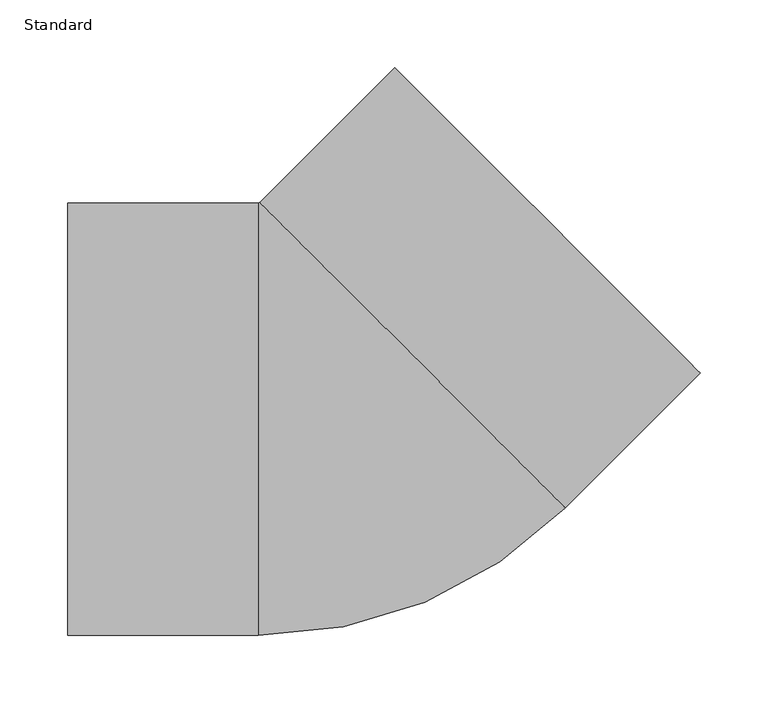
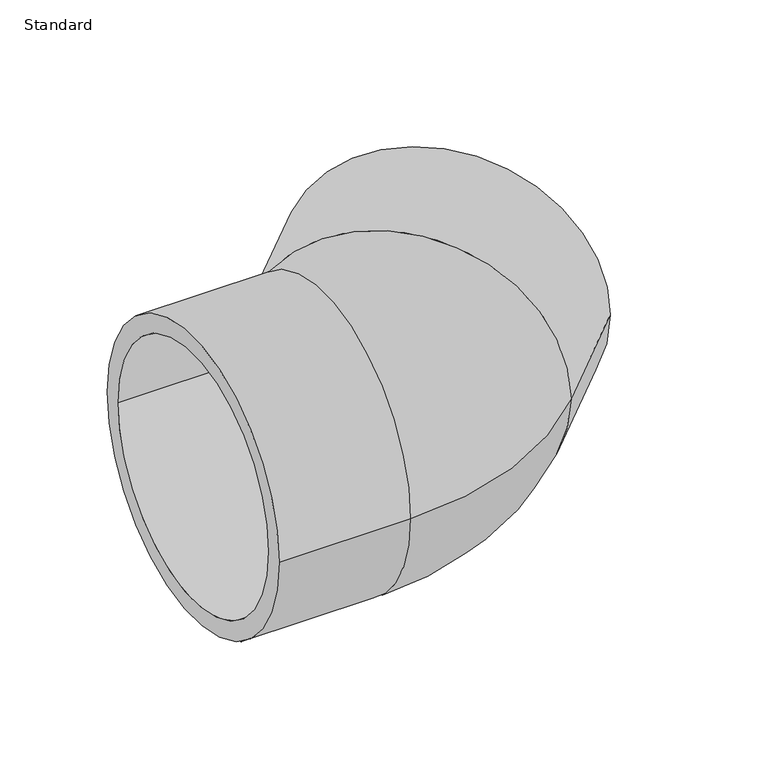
"""IFC4 building model written with IfcOpenShell, lengths in millimetres: pipe fitting geometry, Durapipe_PipeFitting_PVC_Elbow45deg : Standard."""

from ifc_helpers import new_model, si_unit, point, frame, origin, place, context, project, spatial, polyline, circle_curve, ellipse_curve, trimmed, source, transform, mapped, element, save
from ifc_brep_helpers import plane_surface, cylinder_surface, revolved_surface, advanced_brep


def standard_2a486069(model_context):
    return source(origin(), model_context, "Body", "AdvancedBrep", [
        advanced_brep(
        [(-208.0, -160.0, 0.0), (-208.0, 160.0, 0.0), (-208.0, -140.0, 0.0), (-208.0, 140.0, 0.0), (-66.77417, -160.0, 0.0), (-66.77417, 160.0, 0.0), (160.3535534, -65.9206166, 0.0), (-65.9206166, 160.3535534, 0.0), (260.2152955, 33.9411255, 0.0), (33.9411255, 260.2152955, 0.0), (48.0832611, 246.0731599, 0.0), (246.0731599, 48.0832611, 0.0), (-62.0, 140.0, 0.0), (-62.0, -140.0, 0.0), (-62.0, 0.0, 0.0), (-55.1543289, 142.8355698, 0.0), (43.8406204, 43.8406204, 0.0), (142.8355698, -55.1543289, 0.0)],
        [
            (0, 1, circle_curve(frame((-208.0, 0.0, 0.0), z_axis=(-1.0, 0.0, 0.0), x_axis=(0.0, 1.0, 0.0)), 160.0)),
            (1, 0, circle_curve(frame((-208.0, 0.0, 0.0), z_axis=(-1.0, 0.0, 0.0), x_axis=(0.0, 1.0, 0.0)), 160.0)),
            (2, 3, circle_curve(frame((-208.0, 0.0, 0.0), z_axis=(1.0, 0.0, 0.0), x_axis=(0.0, -1.0, 0.0)), 140.0)),
            (3, 2, circle_curve(frame((-208.0, 0.0, 0.0), z_axis=(1.0, 0.0, 0.0), x_axis=(0.0, -1.0, 0.0)), 140.0)),
            (0, 4),
            (4, 5, circle_curve(frame((-66.77417, 0.0, 0.0), z_axis=(-1.0, 0.0, 0.0), x_axis=(0.0, 1.0, 0.0)), 160.0)),
            (5, 1),
            (5, 4, circle_curve(frame((-66.77417, 0.0, 0.0), z_axis=(-1.0, 0.0, 0.0), x_axis=(0.0, 1.0, 0.0)), 160.0)),
            (4, 6, circle_curve(frame((-66.77417, 161.2071068, 0.0), z_axis=(0.0, 0.0, 1.0), x_axis=(0.0, -1.0, 0.0)), 321.2071068)),
            (6, 7, circle_curve(frame((47.2164684, 47.2164684, 0.0), z_axis=(-0.7071067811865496, -0.7071067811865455, 0.0), x_axis=(-0.7071067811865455, 0.7071067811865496, 0.0)), 160.0)),
            (7, 5, circle_curve(frame((-66.77417, 161.2071068, 0.0), z_axis=(0.0, 0.0, -1.0), x_axis=(0.0, -1.0, 0.0)), 1.2071068)),
            (7, 6, circle_curve(frame((47.2164684, 47.2164684, 0.0), z_axis=(-0.7071067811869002, -0.7071067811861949, 0.0), x_axis=(-0.7071067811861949, 0.7071067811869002, 0.0)), 160.0)),
            (8, 9, circle_curve(frame((147.0782105, 147.0782105, 0.0), z_axis=(0.7071067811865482, 0.707106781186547, 0.0), x_axis=(-0.707106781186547, 0.7071067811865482, 0.0)), 160.0)),
            (9, 8, circle_curve(frame((147.0782105, 147.0782105, 0.0), z_axis=(0.7071067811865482, 0.707106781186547, 0.0), x_axis=(-0.707106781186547, 0.7071067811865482, 0.0)), 160.0)),
            (10, 11, circle_curve(frame((147.0782105, 147.0782105, 0.0), z_axis=(-0.707106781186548, -0.707106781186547, 0.0), x_axis=(0.707106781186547, -0.707106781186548, 0.0)), 140.0)),
            (11, 10, circle_curve(frame((147.0782105, 147.0782105, 0.0), z_axis=(-0.707106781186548, -0.707106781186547, 0.0), x_axis=(0.707106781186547, -0.707106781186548, 0.0)), 140.0)),
            (6, 8),
            (9, 7),
            (12, 3),
            (2, 13),
            (13, 12, circle_curve(frame((-62.0, 0.0, 0.0), z_axis=(1.0, 0.0, 0.0), x_axis=(0.0, -1.0, 0.0)), 140.0)),
            (12, 13, circle_curve(frame((-62.0, 0.0, 0.0), z_axis=(1.0, 0.0, 0.0), x_axis=(0.0, -1.0, 0.0)), 140.0)),
            (13, 14),
            (14, 12),
            (15, 16),
            (16, 17),
            (17, 15, circle_curve(frame((43.8406204, 43.8406204, 0.0), z_axis=(0.707106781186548, 0.707106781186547, 0.0), x_axis=(0.707106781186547, -0.707106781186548, 0.0)), 140.0)),
            (15, 17, circle_curve(frame((43.8406204, 43.8406204, 0.0), z_axis=(0.707106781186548, 0.707106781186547, 0.0), x_axis=(0.707106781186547, -0.707106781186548, 0.0)), 140.0)),
            (17, 11),
            (10, 15),
        ],
        [
            plane_surface(frame((-208.0, 0.0, 0.0), z_axis=(-1.0, 0.0, 0.0), x_axis=(0.0, 0.0, 1.0))),
            cylinder_surface(frame((-208.0, 0.0, 0.0), z_axis=(-1.0, 0.0, 0.0), x_axis=(0.0, 1.0, 0.0)), 160.0),
            revolved_surface(trimmed(ellipse_curve(frame((-66.77417, 0.0, 0.0), z_axis=(-1.0, 0.0, 0.0), x_axis=(0.0, 1.0, 0.0)), 160.0, 160.0), [point((-66.77417, -160.0, 0.0))], [point((-66.77417, 160.0, 0.0))], True, "CARTESIAN"), (-66.77417, 161.2071068, 0.0), (0.0, 0.0, 1.0)),
            revolved_surface(trimmed(ellipse_curve(frame((-66.77417, 0.0, 0.0), z_axis=(-1.0, 0.0, 0.0), x_axis=(0.0, 1.0, 0.0)), 160.0, 160.0), [point((-66.77417, 160.0, 0.0))], [point((-66.77417, -160.0, 0.0))], True, "CARTESIAN"), (-66.77417, 161.2071068, 0.0), (0.0, 0.0, 1.0)),
            plane_surface(frame((147.0782105, 147.0782105, 0.0), z_axis=(0.7071067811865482, 0.707106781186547, 0.0), x_axis=(0.0, 0.0, 1.0))),
            cylinder_surface(frame((47.2164684, 47.2164684, 0.0), z_axis=(-0.7071067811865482, -0.707106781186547, 0.0), x_axis=(-0.707106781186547, 0.7071067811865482, 0.0)), 160.0),
            revolved_surface(polyline([(-62.0, -140.0, 0.0), (-208.0, -140.0, 0.0)]), (2000.0, 0.0, 0.0), (1.0, 0.0, 0.0)),
            plane_surface(frame((-62.0, 0.0, 0.0), z_axis=(-1.0, 0.0, 0.0), x_axis=(0.0, -1.0, 0.0))),
            plane_surface(frame((43.8406204, 43.8406204, 0.0), z_axis=(0.707106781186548, 0.707106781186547, 0.0), x_axis=(0.707106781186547, -0.707106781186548, 0.0))),
            revolved_surface(polyline([(246.07315986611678, 48.08326113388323, 0.0), (142.8355697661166, -55.154328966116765, 0.0)]), (0.0, 0.0, 0.0), (0.707106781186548, 0.707106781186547, 0.0)),
        ],
        [
            (0, [[1, 2], [3, 4]]),
            (1, [[-1, 5, 6, 7]]),
            (1, [[-2, -7, 8, -5]]),
            (2, [[-6, 9, 10, 11]]),
            (3, [[-8, -11, 12, -9]]),
            (4, [[13, 14], [15, 16]]),
            (5, [[-10, 17, -14, 18]]),
            (5, [[-12, -18, -13, -17]]),
            (6, [[19, -3, 20, 21]]),
            (6, [[-19, 22, -20, -4]]),
            (7, [[-21, 23, 24]]),
            (7, [[-22, -24, -23]]),
            (8, [[25, 26, 27]]),
            (8, [[-25, 28, -26]]),
            (9, [[-27, 29, -15, 30]]),
            (9, [[-28, -30, -16, -29]]),
        ],
    ),
    ])


if __name__ == "__main__":
    model = new_model("IFC4")
    model_context = context("Model", 3, world=origin())
    ifc_project = project(units=[si_unit("LENGTHUNIT", "METRE", prefix="MILLI")], contexts=[model_context])
    site = spatial("IfcSite", under=ifc_project)
    building = spatial("IfcBuilding", under=site)
    placement = place(None, origin())
    standard_shape = standard_2a486069(model_context)
    element("IfcPipeFitting", 1, ObjectType="Durapipe_PipeFitting_PVC_Elbow45deg : Standard", at=placement, inside=building, context=model_context, shape_type="MappedRepresentation", body=[
        mapped(standard_shape, transform((0.0, 0.0, 0.0), x_axis=(1.0, 0.0, 0.0), y_axis=(0.0, 1.0, 0.0), z_axis=(0.0, 0.0, 1.0))),
    ])
    save(model, "model.ifc")
